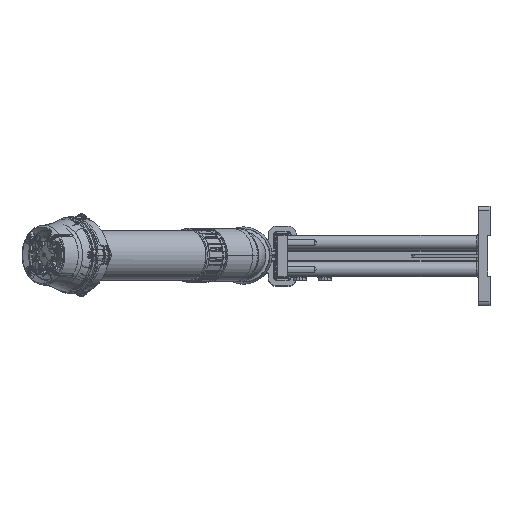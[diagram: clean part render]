
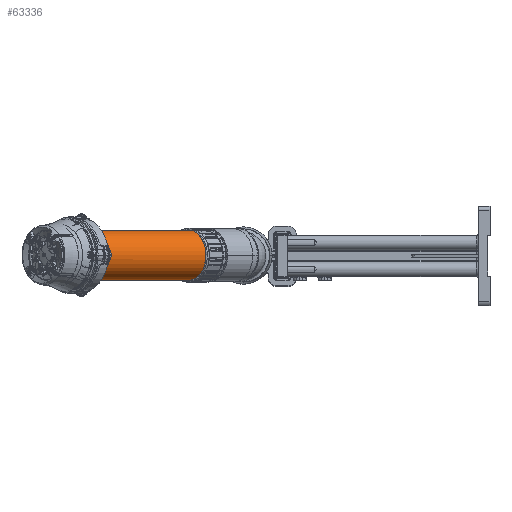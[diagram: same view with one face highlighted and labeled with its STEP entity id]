
A CAD part, top view. The second image highlights one B-rep face of the part: STEP entity #63336.
In plain terms, the highlighted cylindrical face has radius 30 mm (diameter 60 mm), a partial arc.
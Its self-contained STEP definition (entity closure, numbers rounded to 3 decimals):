
#3513 = AXIS2_PLACEMENT_3D ( 'NONE', #6175, #6176, #6177 ) ;
#3514 = AXIS2_PLACEMENT_3D ( 'NONE', #6178, #6179, #6180 ) ;
#6137 = DIRECTION ( 'NONE',  ( 0., 0., -1. ) ) ;
#6172 = CARTESIAN_POINT ( 'NONE',  ( -30., 0., 51.5 ) ) ;
#6173 = DIRECTION ( 'NONE',  ( 0., 0., -1. ) ) ;
#6174 = CARTESIAN_POINT ( 'NONE',  ( 30., 0., 51.5 ) ) ;
#6175 = CARTESIAN_POINT ( 'NONE',  ( 0., 0., 7.5 ) ) ;
#6176 = DIRECTION ( 'NONE',  ( 0., 0., -1. ) ) ;
#6177 = DIRECTION ( 'NONE',  ( -1., 0., 0. ) ) ;
#6178 = CARTESIAN_POINT ( 'NONE',  ( 0., 0., -179. ) ) ;
#6179 = DIRECTION ( 'NONE',  ( 0., 0., 1. ) ) ;
#6180 = DIRECTION ( 'NONE',  ( 1., 0., 0. ) ) ;
#19709 = CARTESIAN_POINT ( 'NONE',  ( -30., 0., 7.5 ) ) ;
#19727 = CARTESIAN_POINT ( 'NONE',  ( 30., 0., 7.5 ) ) ;
#19734 = CARTESIAN_POINT ( 'NONE',  ( 30., 0., -179. ) ) ;
#19737 = CARTESIAN_POINT ( 'NONE',  ( -30., 0., -179. ) ) ;
#24330 = CARTESIAN_POINT ( 'NONE',  ( 0., 0., 51.5 ) ) ;
#24331 = DIRECTION ( 'NONE',  ( 0., 0., -1. ) ) ;
#24339 = DIRECTION ( 'NONE',  ( -1., 0., 0. ) ) ;
#24773 = FACE_OUTER_BOUND ( 'NONE', #70082, .T. ) ;
#24778 = CYLINDRICAL_SURFACE ( 'NONE', #78920, 30. ) ;
#50223 = VERTEX_POINT ( 'NONE', #19709 ) ;
#50230 = VERTEX_POINT ( 'NONE', #19727 ) ;
#50233 = VERTEX_POINT ( 'NONE', #19734 ) ;
#50234 = VERTEX_POINT ( 'NONE', #19737 ) ;
#63336 = ADVANCED_FACE ( 'NONE', ( #24773 ), #24778, .T. ) ;
#70082 = EDGE_LOOP ( 'NONE', ( #84429, #84430, #84431, #84432 ) ) ;
#78920 = AXIS2_PLACEMENT_3D ( 'NONE', #24330, #24331, #24339 ) ;
#84429 = ORIENTED_EDGE ( 'NONE', *, *, #90714, .T. ) ;
#84430 = ORIENTED_EDGE ( 'NONE', *, *, #90715, .T. ) ;
#84431 = ORIENTED_EDGE ( 'NONE', *, *, #90716, .T. ) ;
#84432 = ORIENTED_EDGE ( 'NONE', *, *, #90717, .F. ) ;
#90714 = EDGE_CURVE ( 'NONE', #50223, #50230, #113691, .T. ) ;
#90715 = EDGE_CURVE ( 'NONE', #50230, #50233, #113724, .T. ) ;
#90716 = EDGE_CURVE ( 'NONE', #50233, #50234, #113727, .T. ) ;
#90717 = EDGE_CURVE ( 'NONE', #50223, #50234, #113731, .T. ) ;
#113691 = CIRCLE ( 'NONE', #3513, 30. ) ;
#113724 = LINE ( 'NONE', #6174, #113729 ) ;
#113727 = CIRCLE ( 'NONE', #3514, 30. ) ;
#113729 = VECTOR ( 'NONE', #6137, 1000. ) ;
#113731 = LINE ( 'NONE', #6172, #113734 ) ;
#113734 = VECTOR ( 'NONE', #6173, 1000. ) ;
